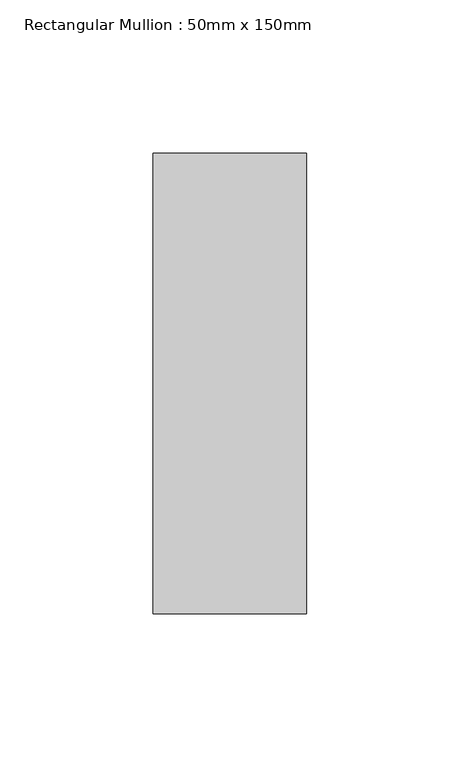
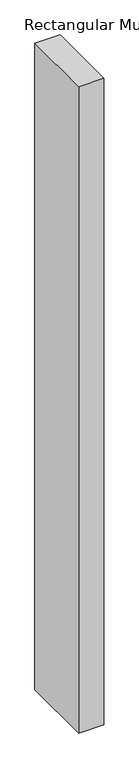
"""IFC4 building model written with IfcOpenShell, lengths in millimetres: member geometry, Rectangular Mullion : 50mm x 150mm."""

import ifcopenshell
import ifcopenshell.guid

model = None  # the IFC model being written
_history = None  # IfcOwnerHistory: only IFC2X3 demands one
_inside = {}  # id of a spatial element -> (the spatial element, [elements in it])
_under = {}  # id of a project, library or spatial element -> (it, [spatial elements below it])
_declared = {}  # id of a project -> (the project, [libraries it declares])
_typed = {}  # id of a type object -> (the type object, [elements of that type])
_made_of = {}  # id of a material, layer set ... -> (it, [elements and type objects made of it])


def new_model(schema):
    """Start an empty IFC model of exactly this schema.

    Asked for "IFC4X3", IfcOpenShell would pick the latest addendum, in which some entities
    have other attributes; the version numbers below select the first issue.
    IFC2X3 requires an IfcOwnerHistory on every rooted entity: one is made here for all.
    """
    global model, _history
    if schema == "IFC4X3":
        model = ifcopenshell.file(schema_version=(4, 3, 0, 0))
    else:
        model = ifcopenshell.file(schema=schema)
    _inside.clear()
    _under.clear()
    _declared.clear()
    _typed.clear()
    _made_of.clear()
    _history = None
    if model.schema == "IFC2X3":
        org = make("IfcOrganization", Name="unknown")
        user = make(
            "IfcPersonAndOrganization",
            ThePerson=make("IfcPerson", FamilyName="unknown"),
            TheOrganization=org,
        )
        app = make(
            "IfcApplication",
            ApplicationDeveloper=org,
            Version="unknown",
            ApplicationFullName="unknown",
            ApplicationIdentifier="unknown",
        )
        _history = make(
            "IfcOwnerHistory",
            OwningUser=user,
            OwningApplication=app,
            ChangeAction="ADDED",
            CreationDate=0,
        )
    return model


def make(cls, **values):
    """One entity of the class cls with the attributes given. An attribute that is None is left unset."""
    return model.create_entity(
        cls, **{name: value for name, value in values.items() if value is not None}
    )


def rooted(cls, **values):
    """An entity with a GlobalId (a new one), such as an element, a storey or a relation."""
    return make(cls, GlobalId=ifcopenshell.guid.new(), OwnerHistory=_history, **values)


def si_unit(unit_type, name, prefix=None):
    """IfcSIUnit, for example si_unit("LENGTHUNIT", "METRE", prefix="MILLI")."""
    return make("IfcSIUnit", UnitType=unit_type, Prefix=prefix, Name=name)


def assignment(units):
    """IfcUnitAssignment: the units of a project."""
    return None if units is None else make("IfcUnitAssignment", Units=units)


def point(xyz):
    """IfcCartesianPoint."""
    return None if xyz is None else make("IfcCartesianPoint", Coordinates=xyz)


def direction(xyz):
    """IfcDirection."""
    return None if xyz is None else make("IfcDirection", DirectionRatios=xyz)


def frame(location, z_axis=None, x_axis=None):
    """IfcAxis2Placement3D, a coordinate frame: its origin and axes. An axis left out is left unset."""
    return make(
        "IfcAxis2Placement3D",
        Location=point(location),
        Axis=direction(z_axis),
        RefDirection=direction(x_axis),
    )


def origin():
    """The frame at (0, 0, 0) with its axes left unset."""
    return frame((0.0, 0.0, 0.0))


def place(relative_to, where):
    """IfcLocalPlacement: puts the frame where relative to a parent placement (None: the world)."""
    return make(
        "IfcLocalPlacement", PlacementRelTo=relative_to, RelativePlacement=where
    )


def context(
    kind, dimensions, precision=None, world=None, true_north=None, identifier=None
):
    """IfcGeometricRepresentationContext, for example the 3D "Model" context."""
    return make(
        "IfcGeometricRepresentationContext",
        ContextIdentifier=identifier,
        ContextType=kind,
        CoordinateSpaceDimension=dimensions,
        Precision=precision,
        WorldCoordinateSystem=world,
        TrueNorth=true_north,
    )


def project(units=None, contexts=None):
    """IfcProject with its units and contexts."""
    return rooted(
        "IfcProject",
        Name="project",
        RepresentationContexts=contexts,
        UnitsInContext=assignment(units),
    )


def spatial(cls, under=None, at=None, **own):
    """A site, building, storey or space (cls), placed at a placement, below another one or the project."""
    s = rooted(cls, ObjectPlacement=at, **own)
    if under is not None:
        _under.setdefault(under.id(), (under, []))[1].append(s)
    return s


def polyline(points):
    """IfcPolyline through the points."""
    return make("IfcPolyline", Points=[point(p) for p in points])


def outline(outer, holes=None, kind="AREA"):
    """IfcArbitraryClosedProfileDef: a profile drawn as a closed curve; with holes, ...WithVoids."""
    if holes is None:
        return make("IfcArbitraryClosedProfileDef", ProfileType=kind, OuterCurve=outer)
    return make(
        "IfcArbitraryProfileDefWithVoids",
        ProfileType=kind,
        OuterCurve=outer,
        InnerCurves=holes,
    )


def extrude(swept, where, along, depth):
    """IfcExtrudedAreaSolid: the profile swept, set in the frame where, extruded along a direction by depth."""
    return make(
        "IfcExtrudedAreaSolid",
        SweptArea=swept,
        Position=where,
        ExtrudedDirection=direction(along),
        Depth=depth,
    )


def shape(context_of_items, identifier, shape_type, items):
    """IfcShapeRepresentation: the items that make up one representation, for example the "Body"."""
    return make(
        "IfcShapeRepresentation",
        ContextOfItems=context_of_items,
        RepresentationIdentifier=identifier,
        RepresentationType=shape_type,
        Items=items,
    )


def source(mapping_origin, context_of_items, identifier, shape_type, items):
    """IfcRepresentationMap: a shape defined once, which mapped items show again and again."""
    return make(
        "IfcRepresentationMap",
        MappingOrigin=mapping_origin,
        MappedRepresentation=shape(context_of_items, identifier, shape_type, items),
    )


def transform(
    local_origin,
    x_axis=None,
    y_axis=None,
    z_axis=None,
    scale=None,
    scale2=None,
    scale3=None,
    uniform=True,
):
    """IfcCartesianTransformationOperator3D, or its non-uniform kind. x_axis, y_axis, z_axis: its Axis1, 2, 3."""
    if uniform:
        return make(
            "IfcCartesianTransformationOperator3D",
            Axis1=direction(x_axis),
            Axis2=direction(y_axis),
            LocalOrigin=point(local_origin),
            Scale=scale,
            Axis3=direction(z_axis),
        )
    return make(
        "IfcCartesianTransformationOperator3DnonUniform",
        Axis1=direction(x_axis),
        Axis2=direction(y_axis),
        LocalOrigin=point(local_origin),
        Scale=scale,
        Axis3=direction(z_axis),
        Scale2=scale2,
        Scale3=scale3,
    )


def mapped(mapping_source, mapping_target):
    """IfcMappedItem: shows the shape of a source again, moved by a transform."""
    return make(
        "IfcMappedItem", MappingSource=mapping_source, MappingTarget=mapping_target
    )


def made_of(thing, what):
    """Note that an element or type object is made of a material, layer set ...; save() writes the relation."""
    if what is not None:
        _made_of.setdefault(what.id(), (what, []))[1].append(thing)
    return thing


def element(
    cls,
    number,
    at=None,
    inside=None,
    cuts=None,
    type_object=None,
    material=None,
    context=None,
    identifier="Body",
    shape_type=None,
    held_by="IfcProductDefinitionShape",
    body=None,
    shapes=None,
    **own,
):
    """One element of the class cls, such as IfcWall. Its Tag is "e" and its number.

    at: its placement. inside: the storey or other place that contains it. cuts: it is an
    opening in that element (IfcRelVoidsElement). A single representation is given by context,
    identifier, shape_type and body (its items); several are given by shapes. held_by: the class
    of the entity that holds the representations. save() writes the other relations.
    """
    e = rooted(cls, Tag="e%d" % number, ObjectPlacement=at, **own)
    if body is not None:
        shapes = [shape(context, identifier, shape_type, body)]
    if shapes is not None:
        e.Representation = make(held_by, Representations=shapes)
    if inside is not None:
        _inside.setdefault(inside.id(), (inside, []))[1].append(e)
    if cuts is not None:
        rooted(
            "IfcRelVoidsElement", RelatingBuildingElement=cuts, RelatedOpeningElement=e
        )
    if type_object is not None:
        _typed.setdefault(type_object.id(), (type_object, []))[1].append(e)
    return made_of(e, material)


def aggregate(whole, parts):
    """IfcRelAggregates: a whole, such as a stair, and the parts it consists of."""
    return rooted("IfcRelAggregates", RelatingObject=whole, RelatedObjects=parts)


def save(model, path):
    """Write the relations noted so far, then the file.

    IfcRelAggregates (storeys below a building ...), IfcRelContainedInSpatialStructure (elements
    in a storey), IfcRelDefinesByType, IfcRelAssociatesMaterial and IfcRelDeclares: one each for
    every whole, place, type object, material and project.
    """
    for whole, parts in _under.values():
        aggregate(whole, parts)
    for where, things in _inside.values():
        rooted(
            "IfcRelContainedInSpatialStructure",
            RelatedElements=things,
            RelatingStructure=where,
        )
    for kind, things in _typed.values():
        rooted("IfcRelDefinesByType", RelatedObjects=things, RelatingType=kind)
    for what, things in _made_of.values():
        rooted("IfcRelAssociatesMaterial", RelatedObjects=things, RelatingMaterial=what)
    for by, libraries in _declared.values():
        rooted("IfcRelDeclares", RelatingContext=by, RelatedDefinitions=libraries)
    model.write(path)


def rectangular_mullion_50mm_x_150mm_3bb547da(model_context):
    return source(origin(), model_context, "Body", "SweptSolid", [
        extrude(outline(polyline([(0.0, 75.0), (0.0, -75.0), (-50.0, -75.0), (-50.0, 75.0), (0.0, 75.0)])), frame((0.0, 0.0, -1352.3178267), z_axis=(0.0, 0.0, 1.0), x_axis=(1.0, 0.0, 0.0)), (0.0, 0.0, 1.0), 1352.3178267),
    ])


if __name__ == "__main__":
    model = new_model("IFC4")
    model_context = context("Model", 3, world=origin())
    ifc_project = project(units=[si_unit("LENGTHUNIT", "METRE", prefix="MILLI")], contexts=[model_context])
    site = spatial("IfcSite", under=ifc_project)
    building = spatial("IfcBuilding", under=site)
    placement = place(None, origin())
    rectangular_mullion_50mm_x_150mm_shape = rectangular_mullion_50mm_x_150mm_3bb547da(model_context)
    element("IfcMember", 1, ObjectType="Rectangular Mullion : 50mm x 150mm", at=placement, inside=building, context=model_context, shape_type="MappedRepresentation", body=[
        mapped(rectangular_mullion_50mm_x_150mm_shape, transform((0.0, 0.0, 0.0), x_axis=(1.0, 0.0, 0.0), y_axis=(0.0, 1.0, 0.0), z_axis=(0.0, 0.0, 1.0))),
    ])
    save(model, "model.ifc")
